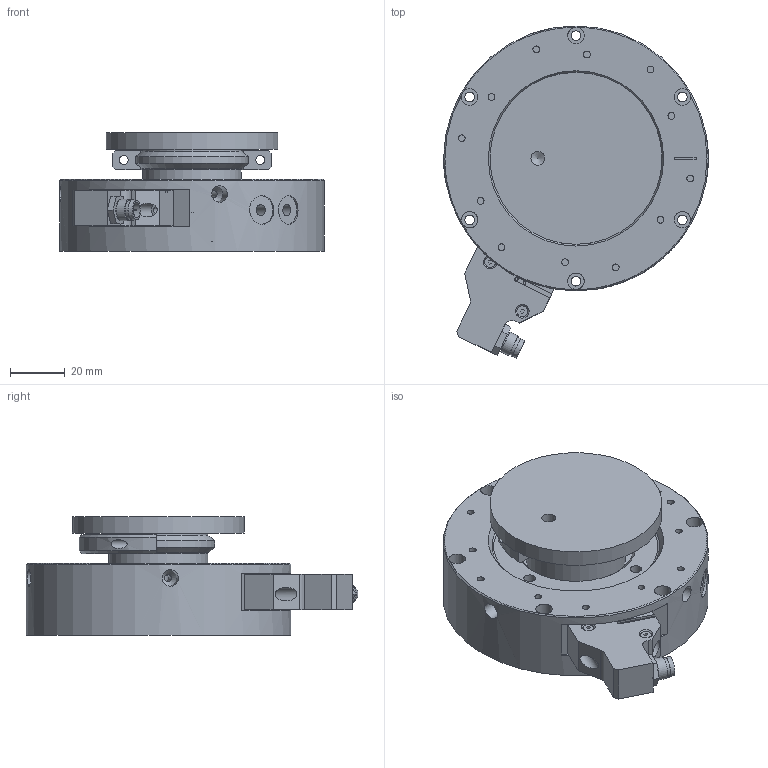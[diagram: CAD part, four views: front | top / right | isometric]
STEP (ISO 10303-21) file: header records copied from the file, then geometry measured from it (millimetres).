
FILE_DESCRIPTION( ( 'Unknown' ), '1' );
FILE_NAME( 'G:/Drawings/99-/EXPORT/x_t-stp-jpg/99-0011A.stp', 'Unknown', ( 'Unknown' ), ( 'Unknown' ), 'XStep 1.0', 'Unknown', ' ' );
FILE_SCHEMA( ( 'CONFIG_CONTROL_DESIGN' ) );
Length unit declared in the file: millimetre
Products named in the file (3): 90510-B1029A
Bounding box: 97 x 121.61 x 43.5 mm (x, y, z)
Volume: 165477 mm3; surface area: 62020.7 mm2
Topology: 3 solids, 6 shells, 338 faces, 799 edges, 548 vertices
Faces by surface type: plane 158, cylinder 143, cone 35, torus 2
Full cylindrical faces by diameter (mm): 0.6 x3, 1.02 x2, 1.6 x4, 2.05 x2, 2.5 x22, 2.986 x2, 3 x2, 3.058 x4, 3.3 x6, 3.5 x12, 3.967 x1, 4.2 x5, 4.986 x4, 4.995 x1, 5 x9, 5.074 x1, 5.16 x1, 5.7 x1, 6 x16, 6.992 x2, 7 x1, 7.97 x2, 8 x2, 8.435 x1, 8.65 x1, 10 x1, 10.005 x1, 10.5 x2, 10.75 x1, 11.285 x1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
Entity records: 9143 total; most frequent: CARTESIAN_POINT 2183, DIRECTION 1484, ORIENTED_EDGE 1040, AXIS2_PLACEMENT_3D 648, EDGE_LOOP 638, EDGE_CURVE 520, FACE_OUTER_BOUND 468, VERTEX_POINT 443
